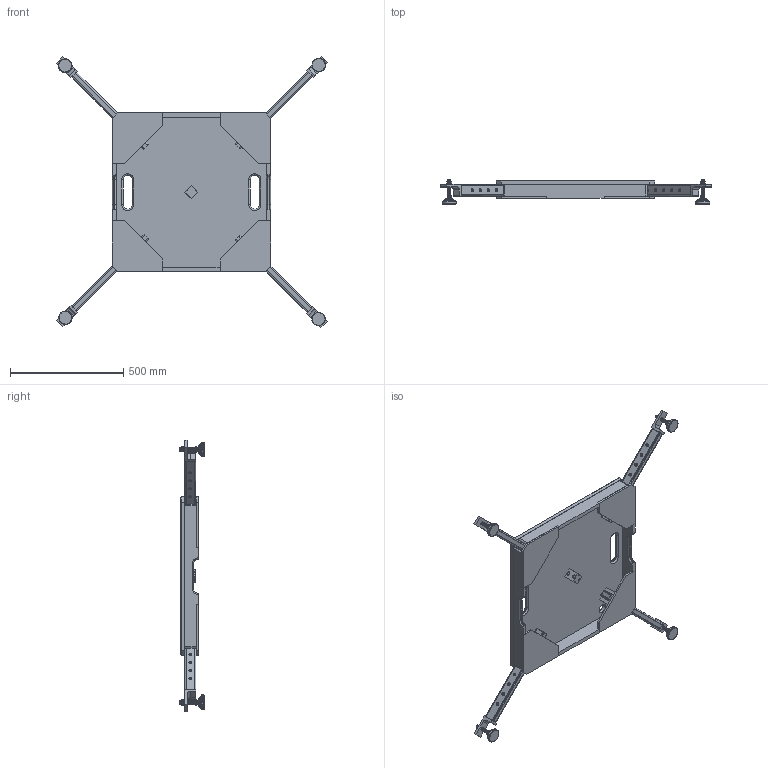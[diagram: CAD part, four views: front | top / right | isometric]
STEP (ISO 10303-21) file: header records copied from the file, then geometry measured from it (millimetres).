
FILE_DESCRIPTION (( 'STEP AP203' ), '1' );
FILE_NAME ('SEEBURG_Groundstackingboard.STEP', '2014-04-04T08:53:32', ( 'Michael Anter' ), ( 'SEEBURG acoustic line GmbH' ), 'SwSTEP 2.0', 'SolidWorks 2009', '' );
FILE_SCHEMA (( 'CONFIG_CONTROL_DESIGN' ));
Length unit declared in the file: millimetre
Products named in the file (10): SEEBURG_Groundstackingboard; Stackingrahmen_Holz; Magnethalterung; Fu達f黵_Rahmen_lang; Gelenkfuss_60mm_detailiert; Imported34; Imported35; Imported36; Hex Thin Nut Chamfered GradeAB_DIN_Hexagon Thin Nut ISO 4035 - M12 - S; Hex Nut GradeC_DIN_Hexagon Nut ISO 4034 - M12 - S
Assembly tree (15 placements, depth 3):
  SEEBURG_Groundstackingboard
    Gelenkfuss_60mm_detailiert  x4
      Hex Thin Nut Chamfered GradeAB_DIN_Hexagon Thin Nut ISO 4035 - M12 - S
      Hex Nut GradeC_DIN_Hexagon Nut ISO 4034 - M12 - S
      Imported34
      Imported35
      Imported36
    Stackingrahmen_Holz
    Magnethalterung
    Fu達f黵_Rahmen_lang  x4
Bounding box: 1195.47 x 109.2 x 1197.11 mm (x, y, z)
Volume: 14170741.3 mm3; surface area: 2497869.4 mm2
Topology: 46 solids, 46 shells, 1782 faces, 3982 edges, 2300 vertices
Faces by surface type: cone 872, cylinder 458, plane 376, torus 68, sphere 8
Entity records: 19702 total; most frequent: CARTESIAN_POINT 3606, DIRECTION 3307, ORIENTED_EDGE 2938, EDGE_CURVE 1469, AXIS2_PLACEMENT_3D 1249, VERTEX_POINT 881, LINE 809, VECTOR 809
